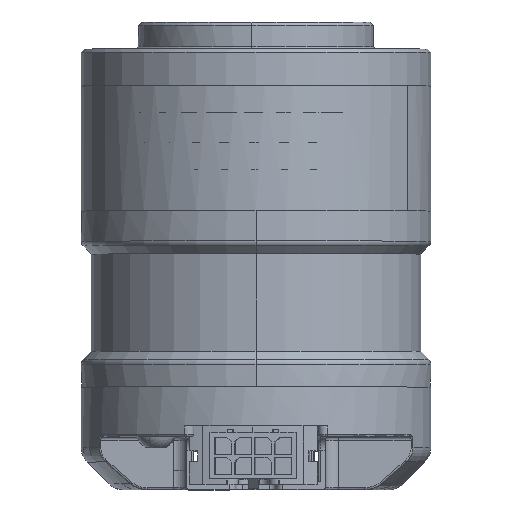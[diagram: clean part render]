
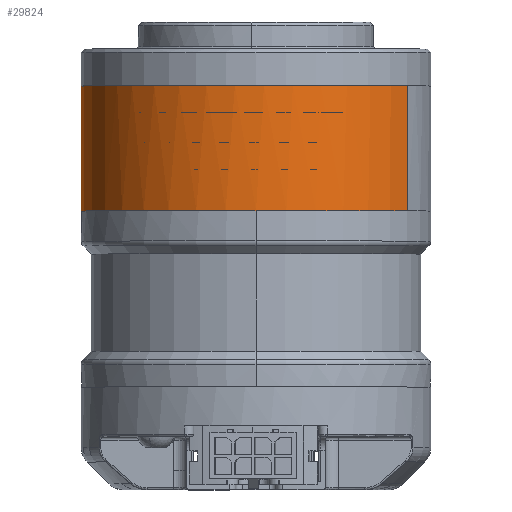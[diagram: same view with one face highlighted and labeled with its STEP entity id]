
A CAD part, top view. The second image highlights one B-rep face of the part: STEP entity #29824.
In plain terms, the highlighted cylindrical face has radius 26 mm (diameter 52 mm), a partial arc.
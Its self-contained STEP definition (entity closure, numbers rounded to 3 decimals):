
#113 = CARTESIAN_POINT ( 'NONE',  ( 22.517, -5.1, 13. ) ) ;
#759 = CARTESIAN_POINT ( 'NONE',  ( -22.517, 75.789, -13. ) ) ;
#1870 = CARTESIAN_POINT ( 'NONE',  ( -22.517, 13.5, -13. ) ) ;
#4177 = CARTESIAN_POINT ( 'NONE',  ( -22.517, 13.5, 13. ) ) ;
#5123 = CARTESIAN_POINT ( 'NONE',  ( 4.538, 13.5, 25.701 ) ) ;
#6734 = CARTESIAN_POINT ( 'NONE',  ( 0., -5.1, 0. ) ) ;
#8831 = CARTESIAN_POINT ( 'NONE',  ( -25.701, 13.5, 4.538 ) ) ;
#9627 = VERTEX_POINT ( 'NONE', #68570 ) ;
#10186 = CARTESIAN_POINT ( 'NONE',  ( 22.517, 13.5, 13. ) ) ;
#11242 = DIRECTION ( 'NONE',  ( 0., -1., 0. ) ) ;
#12363 = CARTESIAN_POINT ( 'NONE',  ( 22.517, 13.5, 13. ) ) ;
#12699 = CARTESIAN_POINT ( 'NONE',  ( -4.538, 13.5, 25.701 ) ) ;
#13722 = EDGE_CURVE ( 'NONE', #33221, #9627, #65420, .T. ) ;
#14351 = CARTESIAN_POINT ( 'NONE',  ( -21.382, 13.5, 14.965 ) ) ;
#16965 = ORIENTED_EDGE ( 'NONE', *, *, #95870, .T. ) ;
#18306 = CARTESIAN_POINT ( 'NONE',  ( 0., 75.789, 0. ) ) ;
#18921 = VECTOR ( 'NONE', #11242, 1000. ) ;
#21531 = CARTESIAN_POINT ( 'NONE',  ( -22.517, -5.1, -13. ) ) ;
#21873 = ORIENTED_EDGE ( 'NONE', *, *, #13722, .T. ) ;
#22026 = VERTEX_POINT ( 'NONE', #10186 ) ;
#22650 = LINE ( 'NONE', #759, #84592 ) ;
#24715 = CARTESIAN_POINT ( 'NONE',  ( -26., 13.5, -2.269 ) ) ;
#28290 = CARTESIAN_POINT ( 'NONE',  ( -2.269, 13.5, 26. ) ) ;
#29379 = B_SPLINE_CURVE_WITH_KNOTS ( 'NONE', 3,
 ( #12363, #66610, #80903, #88507, #42950, #96191, #50676, #5123, #74243, #28290, #12699, #35924, #36269, #45276, #82517, #83847, #14351, #60629 ),
 .UNSPECIFIED., .F., .F.,
 ( 4, 2, 2, 2, 2, 2, 2, 2, 4 ),
 ( 0.333, 0.417, 0.5, 0.583, 0.667, 0.75, 0.833, 0.917, 1. ),
 .UNSPECIFIED. ) ;
#29824 = ADVANCED_FACE ( 'NONE', ( #38886 ), #92480, .T. ) ;
#30219 = DIRECTION ( 'NONE',  ( 0., -1., 0. ) ) ;
#31331 = CARTESIAN_POINT ( 'NONE',  ( -23.651, 13.5, -11.035 ) ) ;
#33221 = VERTEX_POINT ( 'NONE', #4177 ) ;
#35803 = EDGE_CURVE ( 'NONE', #54586, #48426, #41695, .T. ) ;
#35924 = CARTESIAN_POINT ( 'NONE',  ( -8.921, 13.5, 24.527 ) ) ;
#36269 = CARTESIAN_POINT ( 'NONE',  ( -11.035, 13.5, 23.651 ) ) ;
#38886 = FACE_OUTER_BOUND ( 'NONE', #67656, .T. ) ;
#38963 = CARTESIAN_POINT ( 'NONE',  ( -22.517, 13.5, 13. ) ) ;
#40237 = DIRECTION ( 'NONE',  ( 0., -1., 0. ) ) ;
#41695 = CIRCLE ( 'NONE', #70214, 26. ) ;
#42950 = CARTESIAN_POINT ( 'NONE',  ( 14.965, 13.5, 21.382 ) ) ;
#42980 = EDGE_CURVE ( 'NONE', #22026, #33221, #29379, .T. ) ;
#45276 = CARTESIAN_POINT ( 'NONE',  ( -14.965, 13.5, 21.382 ) ) ;
#47344 = CARTESIAN_POINT ( 'NONE',  ( -24.527, 13.5, 8.921 ) ) ;
#48426 = VERTEX_POINT ( 'NONE', #21531 ) ;
#50676 = CARTESIAN_POINT ( 'NONE',  ( 8.921, 13.5, 24.527 ) ) ;
#53726 = CARTESIAN_POINT ( 'NONE',  ( -26., 13.5, 2.269 ) ) ;
#54586 = VERTEX_POINT ( 'NONE', #113 ) ;
#60629 = CARTESIAN_POINT ( 'NONE',  ( -22.517, 13.5, 13. ) ) ;
#61835 = LINE ( 'NONE', #79442, #18921 ) ;
#62678 = CARTESIAN_POINT ( 'NONE',  ( -23.651, 13.5, 11.035 ) ) ;
#65420 = B_SPLINE_CURVE_WITH_KNOTS ( 'NONE', 3,
 ( #38963, #62678, #47344, #8831, #53726, #24715, #76607, #85243, #31331, #1870 ),
 .UNSPECIFIED., .F., .F.,
 ( 4, 2, 2, 2, 4 ),
 ( 0., 0.083, 0.167, 0.25, 0.333 ),
 .UNSPECIFIED. ) ;
#66610 = CARTESIAN_POINT ( 'NONE',  ( 21.382, 13.5, 14.965 ) ) ;
#67656 = EDGE_LOOP ( 'NONE', ( #21873, #16965, #71303, #75228, #98405 ) ) ;
#68570 = CARTESIAN_POINT ( 'NONE',  ( -22.517, 13.5, -13. ) ) ;
#70214 = AXIS2_PLACEMENT_3D ( 'NONE', #6734, #90531, #76190 ) ;
#71303 = ORIENTED_EDGE ( 'NONE', *, *, #35803, .F. ) ;
#74243 = CARTESIAN_POINT ( 'NONE',  ( 2.269, 13.5, 26. ) ) ;
#75228 = ORIENTED_EDGE ( 'NONE', *, *, #96145, .F. ) ;
#76190 = DIRECTION ( 'NONE',  ( 0.5, 0., -0.866 ) ) ;
#76607 = CARTESIAN_POINT ( 'NONE',  ( -25.701, 13.5, -4.538 ) ) ;
#79442 = CARTESIAN_POINT ( 'NONE',  ( 22.517, 75.789, 13. ) ) ;
#80903 = CARTESIAN_POINT ( 'NONE',  ( 19.989, 13.5, 16.78 ) ) ;
#82517 = CARTESIAN_POINT ( 'NONE',  ( -16.78, 13.5, 19.989 ) ) ;
#83381 = AXIS2_PLACEMENT_3D ( 'NONE', #18306, #40237, #93847 ) ;
#83847 = CARTESIAN_POINT ( 'NONE',  ( -19.989, 13.5, 16.78 ) ) ;
#84592 = VECTOR ( 'NONE', #30219, 1000. ) ;
#85243 = CARTESIAN_POINT ( 'NONE',  ( -24.527, 13.5, -8.921 ) ) ;
#88507 = CARTESIAN_POINT ( 'NONE',  ( 16.78, 13.5, 19.989 ) ) ;
#90531 = DIRECTION ( 'NONE',  ( 0., -1., 0. ) ) ;
#92480 = CYLINDRICAL_SURFACE ( 'NONE', #83381, 26. ) ;
#93847 = DIRECTION ( 'NONE',  ( 0.866, 0., 0.5 ) ) ;
#95870 = EDGE_CURVE ( 'NONE', #9627, #48426, #22650, .T. ) ;
#96145 = EDGE_CURVE ( 'NONE', #22026, #54586, #61835, .T. ) ;
#96191 = CARTESIAN_POINT ( 'NONE',  ( 11.035, 13.5, 23.651 ) ) ;
#98405 = ORIENTED_EDGE ( 'NONE', *, *, #42980, .T. ) ;
